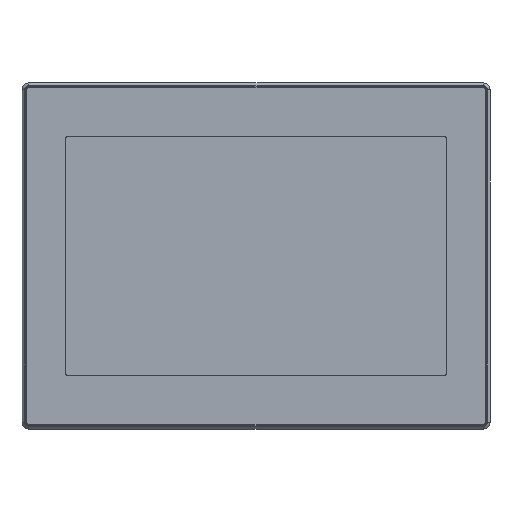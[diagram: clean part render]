
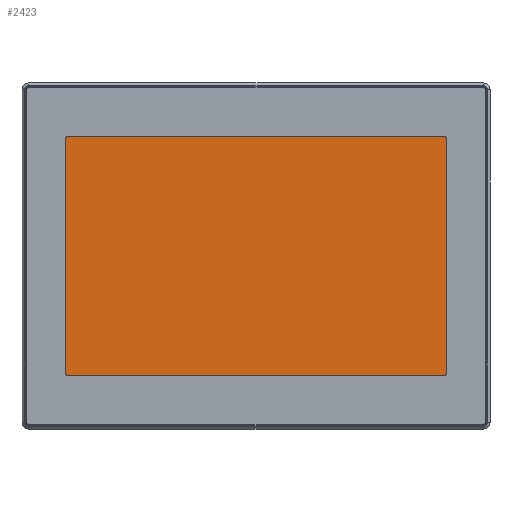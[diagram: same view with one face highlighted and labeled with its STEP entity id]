
A CAD part, top view. The second image highlights one B-rep face of the part: STEP entity #2423.
In plain terms, the highlighted planar face has unit normal (0, 0, 1).
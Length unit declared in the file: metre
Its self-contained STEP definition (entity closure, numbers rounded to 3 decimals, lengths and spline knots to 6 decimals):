
#2423=ADVANCED_FACE('2:404213',(#7566),#7567,.F.);
#7566=FACE_OUTER_BOUND('',#17330,.T.);
#7567=PLANE('',#17331);
#17330=EDGE_LOOP('',(#38112,#38113,#38114,#38115,#38116,#38117,#38118,#38119));
#17331=AXIS2_PLACEMENT_3D('',#38120,#38121,#38122);
#38112=ORIENTED_EDGE('',*,*,#47475,.T.);
#38113=ORIENTED_EDGE('',*,*,#47476,.T.);
#38114=ORIENTED_EDGE('',*,*,#47477,.T.);
#38115=ORIENTED_EDGE('',*,*,#47478,.T.);
#38116=ORIENTED_EDGE('',*,*,#47479,.T.);
#38117=ORIENTED_EDGE('',*,*,#47480,.T.);
#38118=ORIENTED_EDGE('',*,*,#47481,.T.);
#38119=ORIENTED_EDGE('',*,*,#47482,.T.);
#38120=CARTESIAN_POINT('',(0.24248,0.1668,0.064125));
#38121=DIRECTION('',(0.0,0.0,-1.0));
#38122=DIRECTION('',(0.0,-1.0,0.0));
#47475=EDGE_CURVE('2:422879',#59044,#59045,#59046,.T.);
#47476=EDGE_CURVE('2:422882',#59045,#59047,#59048,.T.);
#47477=EDGE_CURVE('2:422885',#59047,#59049,#59050,.T.);
#47478=EDGE_CURVE('2:422888',#59049,#59051,#59052,.T.);
#47479=EDGE_CURVE('2:422891',#59051,#59053,#59054,.T.);
#47480=EDGE_CURVE('2:422894',#59053,#59055,#59056,.T.);
#47481=EDGE_CURVE('2:422897',#59055,#59057,#59058,.T.);
#47482=EDGE_CURVE('2:422900',#59057,#59044,#59059,.T.);
#59044=VERTEX_POINT('',#80206);
#59045=VERTEX_POINT('',#80207);
#59046=CIRCLE('',#80208,0.001);
#59047=VERTEX_POINT('',#80209);
#59048=LINE('',#80210,#80211);
#59049=VERTEX_POINT('',#80212);
#59050=CIRCLE('',#80213,0.001);
#59051=VERTEX_POINT('',#80214);
#59052=LINE('',#80215,#80216);
#59053=VERTEX_POINT('',#80217);
#59054=CIRCLE('',#80218,0.001);
#59055=VERTEX_POINT('',#80219);
#59056=LINE('',#80220,#80221);
#59057=VERTEX_POINT('',#80222);
#59058=CIRCLE('',#80223,0.001);
#59059=LINE('',#80224,#80225);
#80206=CARTESIAN_POINT('',(0.24248,0.0307,0.064125));
#80207=CARTESIAN_POINT('',(0.24348,0.0317,0.064125));
#80208=AXIS2_PLACEMENT_3D('',#91165,#91166,#91167);
#80209=CARTESIAN_POINT('',(0.24348,0.1668,0.064125));
#80210=CARTESIAN_POINT('',(0.24348,0.1668,0.064125));
#80211=VECTOR('',#91168,0.001);
#80212=CARTESIAN_POINT('',(0.24248,0.1678,0.064125));
#80213=AXIS2_PLACEMENT_3D('',#91169,#91170,#91171);
#80214=CARTESIAN_POINT('',(0.02602,0.1678,0.064125));
#80215=CARTESIAN_POINT('',(0.02602,0.1678,0.064125));
#80216=VECTOR('',#91172,0.001);
#80217=CARTESIAN_POINT('',(0.02502,0.1668,0.064125));
#80218=AXIS2_PLACEMENT_3D('',#91173,#91174,#91175);
#80219=CARTESIAN_POINT('',(0.02502,0.0317,0.064125));
#80220=CARTESIAN_POINT('',(0.02502,0.1668,0.064125));
#80221=VECTOR('',#91176,0.001);
#80222=CARTESIAN_POINT('',(0.02602,0.0307,0.064125));
#80223=AXIS2_PLACEMENT_3D('',#91177,#91178,#91179);
#80224=CARTESIAN_POINT('',(0.02602,0.0307,0.064125));
#80225=VECTOR('',#91180,0.001);
#91165=CARTESIAN_POINT('',(0.24248,0.0317,0.064125));
#91166=DIRECTION('',(0.0,0.0,1.0));
#91167=DIRECTION('',(1.0,0.0,0.0));
#91168=DIRECTION('',(0.0,1.0,0.0));
#91169=CARTESIAN_POINT('',(0.24248,0.1668,0.064125));
#91170=DIRECTION('',(0.0,0.0,1.0));
#91171=DIRECTION('',(1.0,0.0,0.0));
#91172=DIRECTION('',(-1.0,0.0,0.0));
#91173=CARTESIAN_POINT('',(0.02602,0.1668,0.064125));
#91174=DIRECTION('',(0.0,0.0,1.0));
#91175=DIRECTION('',(1.0,0.0,0.0));
#91176=DIRECTION('',(0.0,-1.0,0.0));
#91177=CARTESIAN_POINT('',(0.02602,0.0317,0.064125));
#91178=DIRECTION('',(0.0,0.0,1.0));
#91179=DIRECTION('',(1.0,0.0,0.0));
#91180=DIRECTION('',(1.0,0.0,0.0));
